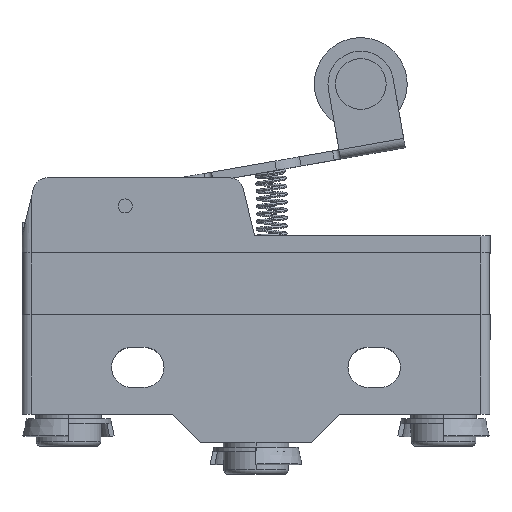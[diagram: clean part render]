
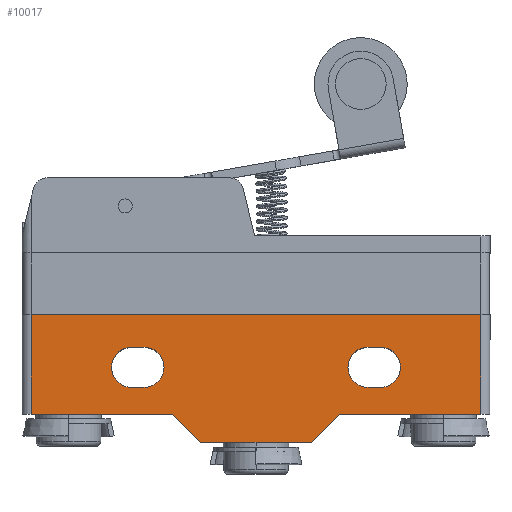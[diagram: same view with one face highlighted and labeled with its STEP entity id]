
A CAD part, top view. The second image highlights one B-rep face of the part: STEP entity #10017.
In plain terms, the highlighted planar face has unit normal (0, 0, 1).
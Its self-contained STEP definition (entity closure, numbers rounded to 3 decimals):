
#238 = VERTEX_POINT ( 'NONE', #1609 ) ;
#239 = VERTEX_POINT ( 'NONE', #1610 ) ;
#240 = VERTEX_POINT ( 'NONE', #1611 ) ;
#241 = VERTEX_POINT ( 'NONE', #1612 ) ;
#242 = VERTEX_POINT ( 'NONE', #1613 ) ;
#243 = VERTEX_POINT ( 'NONE', #1614 ) ;
#245 = VERTEX_POINT ( 'NONE', #1616 ) ;
#246 = VERTEX_POINT ( 'NONE', #1617 ) ;
#247 = VERTEX_POINT ( 'NONE', #1618 ) ;
#248 = VERTEX_POINT ( 'NONE', #1619 ) ;
#249 = VERTEX_POINT ( 'NONE', #1620 ) ;
#250 = VERTEX_POINT ( 'NONE', #1621 ) ;
#429 = CARTESIAN_POINT ( 'NONE',  ( 11.95, -2.1, 9. ) ) ;
#487 = DIRECTION ( 'NONE',  ( 0., 0., -1. ) ) ;
#488 = DIRECTION ( 'NONE',  ( -1., 0., 0. ) ) ;
#489 = CARTESIAN_POINT ( 'NONE',  ( 13.25, -2.1, 9. ) ) ;
#490 = LINE ( 'NONE', #491, #10826 ) ;
#491 = CARTESIAN_POINT ( 'NONE',  ( 0., -4.25, 9. ) ) ;
#492 = DIRECTION ( 'NONE',  ( -1., 0., 0. ) ) ;
#493 = LINE ( 'NONE', #494, #10878 ) ;
#494 = CARTESIAN_POINT ( 'NONE',  ( 0., 0.05, 9. ) ) ;
#495 = DIRECTION ( 'NONE',  ( 1., 0., 0. ) ) ;
#496 = DIRECTION ( 'NONE',  ( 0., 0., -1. ) ) ;
#497 = DIRECTION ( 'NONE',  ( -1., 0., 0. ) ) ;
#498 = CARTESIAN_POINT ( 'NONE',  ( -13.25, -2.1, 9. ) ) ;
#499 = LINE ( 'NONE', #500, #11488 ) ;
#500 = CARTESIAN_POINT ( 'NONE',  ( 0., -4.25, 9. ) ) ;
#501 = DIRECTION ( 'NONE',  ( -1., 0., 0. ) ) ;
#502 = DIRECTION ( 'NONE',  ( 0., 0., -1. ) ) ;
#503 = DIRECTION ( 'NONE',  ( -1., 0., 0. ) ) ;
#504 = CARTESIAN_POINT ( 'NONE',  ( -11.95, -2.1, 9. ) ) ;
#505 = LINE ( 'NONE', #506, #11451 ) ;
#506 = CARTESIAN_POINT ( 'NONE',  ( 0., 0.05, 9. ) ) ;
#507 = DIRECTION ( 'NONE',  ( 1., 0., 0. ) ) ;
#508 = DIRECTION ( 'NONE',  ( 0., 0., -1. ) ) ;
#509 = DIRECTION ( 'NONE',  ( -1., 0., 0. ) ) ;
#511 = LINE ( 'NONE', #512, #11492 ) ;
#512 = CARTESIAN_POINT ( 'NONE',  ( -23.95, 3.5, 9. ) ) ;
#513 = DIRECTION ( 'NONE',  ( 1., 0., 0. ) ) ;
#514 = LINE ( 'NONE', #515, #11497 ) ;
#515 = CARTESIAN_POINT ( 'NONE',  ( -23.95, 0., 9. ) ) ;
#516 = DIRECTION ( 'NONE',  ( 0., -1., 0. ) ) ;
#517 = LINE ( 'NONE', #518, #11353 ) ;
#518 = CARTESIAN_POINT ( 'NONE',  ( -8.9, -7.1, 9. ) ) ;
#519 = DIRECTION ( 'NONE',  ( 1., 0., 0. ) ) ;
#520 = LINE ( 'NONE', #521, #11356 ) ;
#521 = CARTESIAN_POINT ( 'NONE',  ( -5.9, -10.1, 9. ) ) ;
#522 = DIRECTION ( 'NONE',  ( 0.707, -0.707, 0. ) ) ;
#523 = LINE ( 'NONE', #524, #11449 ) ;
#524 = CARTESIAN_POINT ( 'NONE',  ( 5.9, -10.1, 9. ) ) ;
#525 = DIRECTION ( 'NONE',  ( 1., 0., 0. ) ) ;
#526 = LINE ( 'NONE', #527, #11452 ) ;
#527 = CARTESIAN_POINT ( 'NONE',  ( 8.9, -7.1, 9. ) ) ;
#528 = DIRECTION ( 'NONE',  ( 0.707, 0.707, 0. ) ) ;
#529 = LINE ( 'NONE', #530, #11387 ) ;
#530 = CARTESIAN_POINT ( 'NONE',  ( 23.95, 0., 9. ) ) ;
#531 = DIRECTION ( 'NONE',  ( 0., 1., 0. ) ) ;
#1336 = CARTESIAN_POINT ( 'NONE',  ( 15.4, -2.1, 9. ) ) ;
#1337 = CARTESIAN_POINT ( 'NONE',  ( 13.25, 0.05, 9. ) ) ;
#1609 = CARTESIAN_POINT ( 'NONE',  ( 13.25, -4.25, 9. ) ) ;
#1610 = CARTESIAN_POINT ( 'NONE',  ( 11.95, -4.25, 9. ) ) ;
#1611 = CARTESIAN_POINT ( 'NONE',  ( 11.95, 0.05, 9. ) ) ;
#1612 = CARTESIAN_POINT ( 'NONE',  ( -11.95, -4.25, 9. ) ) ;
#1613 = CARTESIAN_POINT ( 'NONE',  ( -13.25, -4.25, 9. ) ) ;
#1614 = CARTESIAN_POINT ( 'NONE',  ( -13.25, 0.05, 9. ) ) ;
#1616 = CARTESIAN_POINT ( 'NONE',  ( -23.95, 3.5, 9. ) ) ;
#1617 = CARTESIAN_POINT ( 'NONE',  ( 23.95, 3.5, 9. ) ) ;
#1618 = CARTESIAN_POINT ( 'NONE',  ( -23.95, -7.1, 9. ) ) ;
#1619 = CARTESIAN_POINT ( 'NONE',  ( -8.9, -7.1, 9. ) ) ;
#1620 = CARTESIAN_POINT ( 'NONE',  ( -5.9, -10.1, 9. ) ) ;
#1621 = CARTESIAN_POINT ( 'NONE',  ( 5.9, -10.1, 9. ) ) ;
#1973 = CARTESIAN_POINT ( 'NONE',  ( -11.95, 0.05, 9. ) ) ;
#1975 = CARTESIAN_POINT ( 'NONE',  ( -9.8, -2.1, 9. ) ) ;
#1988 = CARTESIAN_POINT ( 'NONE',  ( 23.95, -7.1, 9. ) ) ;
#1989 = CARTESIAN_POINT ( 'NONE',  ( 8.9, -7.1, 9. ) ) ;
#3106 = EDGE_LOOP ( 'NONE', ( #3974, #3972, #3973, #3971, #3970 ) ) ;
#3107 = EDGE_LOOP ( 'NONE', ( #3969, #3967, #3968, #3966, #3965 ) ) ;
#3108 = EDGE_LOOP ( 'NONE', ( #3964, #3962, #3963, #3961, #3960, #3959, #3958, #3957 ) ) ;
#3957 = ORIENTED_EDGE ( 'NONE', *, *, #11221, .T. ) ;
#3958 = ORIENTED_EDGE ( 'NONE', *, *, #11003, .T. ) ;
#3959 = ORIENTED_EDGE ( 'NONE', *, *, #11220, .T. ) ;
#3960 = ORIENTED_EDGE ( 'NONE', *, *, #11218, .T. ) ;
#3961 = ORIENTED_EDGE ( 'NONE', *, *, #11217, .T. ) ;
#3962 = ORIENTED_EDGE ( 'NONE', *, *, #11215, .T. ) ;
#3963 = ORIENTED_EDGE ( 'NONE', *, *, #11216, .T. ) ;
#3964 = ORIENTED_EDGE ( 'NONE', *, *, #11214, .F. ) ;
#3965 = ORIENTED_EDGE ( 'NONE', *, *, #11213, .T. ) ;
#3966 = ORIENTED_EDGE ( 'NONE', *, *, #10897, .T. ) ;
#3967 = ORIENTED_EDGE ( 'NONE', *, *, #11210, .T. ) ;
#3968 = ORIENTED_EDGE ( 'NONE', *, *, #11212, .T. ) ;
#3969 = ORIENTED_EDGE ( 'NONE', *, *, #11209, .T. ) ;
#3970 = ORIENTED_EDGE ( 'NONE', *, *, #11207, .T. ) ;
#3971 = ORIENTED_EDGE ( 'NONE', *, *, #10896, .T. ) ;
#3972 = ORIENTED_EDGE ( 'NONE', *, *, #11203, .T. ) ;
#3973 = ORIENTED_EDGE ( 'NONE', *, *, #11206, .T. ) ;
#3974 = ORIENTED_EDGE ( 'NONE', *, *, #11205, .T. ) ;
#4176 = AXIS2_PLACEMENT_3D ( 'NONE', #6573, #6574, #6575 ) ;
#4178 = AXIS2_PLACEMENT_3D ( 'NONE', #6570, #6571, #6572 ) ;
#4250 = VECTOR ( 'NONE', #7091, 1000. ) ;
#5064 = AXIS2_PLACEMENT_3D ( 'NONE', #6210, #6211, #6212 ) ;
#5066 = FACE_OUTER_BOUND ( 'NONE', #3108, .T. ) ;
#5069 = FACE_BOUND ( 'NONE', #3107, .T. ) ;
#5073 = FACE_BOUND ( 'NONE', #3106, .T. ) ;
#6209 = PLANE ( 'NONE',  #5064 ) ;
#6210 = CARTESIAN_POINT ( 'NONE',  ( 0., 0., 9. ) ) ;
#6211 = DIRECTION ( 'NONE',  ( 0., 0., -1. ) ) ;
#6212 = DIRECTION ( 'NONE',  ( -1., 0., 0. ) ) ;
#6570 = CARTESIAN_POINT ( 'NONE',  ( 13.25, -2.1, 9. ) ) ;
#6571 = DIRECTION ( 'NONE',  ( 0., 0., -1. ) ) ;
#6572 = DIRECTION ( 'NONE',  ( -1., 0., 0. ) ) ;
#6573 = CARTESIAN_POINT ( 'NONE',  ( -11.95, -2.1, 9. ) ) ;
#6574 = DIRECTION ( 'NONE',  ( 0., 0., -1. ) ) ;
#6575 = DIRECTION ( 'NONE',  ( -1., 0., 0. ) ) ;
#7089 = LINE ( 'NONE', #7090, #4250 ) ;
#7090 = CARTESIAN_POINT ( 'NONE',  ( 24.95, -7.1, 9. ) ) ;
#7091 = DIRECTION ( 'NONE',  ( 1., 0., 0. ) ) ;
#7453 = VERTEX_POINT ( 'NONE', #1973 ) ;
#7943 = VERTEX_POINT ( 'NONE', #1975 ) ;
#9870 = VERTEX_POINT ( 'NONE', #1988 ) ;
#9871 = VERTEX_POINT ( 'NONE', #1989 ) ;
#10017 = ADVANCED_FACE ( 'NONE', ( #5073, #5069, #5066 ), #6209, .F. ) ;
#10529 = CIRCLE ( 'NONE', #10831, 2.15 ) ;
#10530 = CIRCLE ( 'NONE', #10759, 2.15 ) ;
#10531 = CIRCLE ( 'NONE', #10778, 2.15 ) ;
#10532 = CIRCLE ( 'NONE', #10818, 2.15 ) ;
#10600 = CIRCLE ( 'NONE', #4176, 2.15 ) ;
#10601 = CIRCLE ( 'NONE', #4178, 2.15 ) ;
#10759 = AXIS2_PLACEMENT_3D ( 'NONE', #498, #502, #503 ) ;
#10778 = AXIS2_PLACEMENT_3D ( 'NONE', #489, #496, #497 ) ;
#10818 = AXIS2_PLACEMENT_3D ( 'NONE', #429, #487, #488 ) ;
#10826 = VECTOR ( 'NONE', #492, 1000. ) ;
#10831 = AXIS2_PLACEMENT_3D ( 'NONE', #504, #508, #509 ) ;
#10878 = VECTOR ( 'NONE', #495, 1000. ) ;
#10896 = EDGE_CURVE ( 'NONE', #11649, #11648, #10601, .T. ) ;
#10897 = EDGE_CURVE ( 'NONE', #7453, #7943, #10600, .T. ) ;
#11003 = EDGE_CURVE ( 'NONE', #9871, #9870, #7089, .T. ) ;
#11203 = EDGE_CURVE ( 'NONE', #239, #240, #10532, .T. ) ;
#11205 = EDGE_CURVE ( 'NONE', #238, #239, #490, .T. ) ;
#11206 = EDGE_CURVE ( 'NONE', #240, #11649, #493, .T. ) ;
#11207 = EDGE_CURVE ( 'NONE', #11648, #238, #10531, .T. ) ;
#11209 = EDGE_CURVE ( 'NONE', #241, #242, #499, .T. ) ;
#11210 = EDGE_CURVE ( 'NONE', #242, #243, #10530, .T. ) ;
#11212 = EDGE_CURVE ( 'NONE', #243, #7453, #505, .T. ) ;
#11213 = EDGE_CURVE ( 'NONE', #7943, #241, #10529, .T. ) ;
#11214 = EDGE_CURVE ( 'NONE', #245, #246, #511, .T. ) ;
#11215 = EDGE_CURVE ( 'NONE', #245, #247, #514, .T. ) ;
#11216 = EDGE_CURVE ( 'NONE', #247, #248, #517, .T. ) ;
#11217 = EDGE_CURVE ( 'NONE', #248, #249, #520, .T. ) ;
#11218 = EDGE_CURVE ( 'NONE', #249, #250, #523, .T. ) ;
#11220 = EDGE_CURVE ( 'NONE', #250, #9871, #526, .T. ) ;
#11221 = EDGE_CURVE ( 'NONE', #9870, #246, #529, .T. ) ;
#11353 = VECTOR ( 'NONE', #519, 1000. ) ;
#11356 = VECTOR ( 'NONE', #522, 1000. ) ;
#11387 = VECTOR ( 'NONE', #531, 1000. ) ;
#11449 = VECTOR ( 'NONE', #525, 1000. ) ;
#11451 = VECTOR ( 'NONE', #507, 1000. ) ;
#11452 = VECTOR ( 'NONE', #528, 1000. ) ;
#11488 = VECTOR ( 'NONE', #501, 1000. ) ;
#11492 = VECTOR ( 'NONE', #513, 1000. ) ;
#11497 = VECTOR ( 'NONE', #516, 1000. ) ;
#11648 = VERTEX_POINT ( 'NONE', #1336 ) ;
#11649 = VERTEX_POINT ( 'NONE', #1337 ) ;
